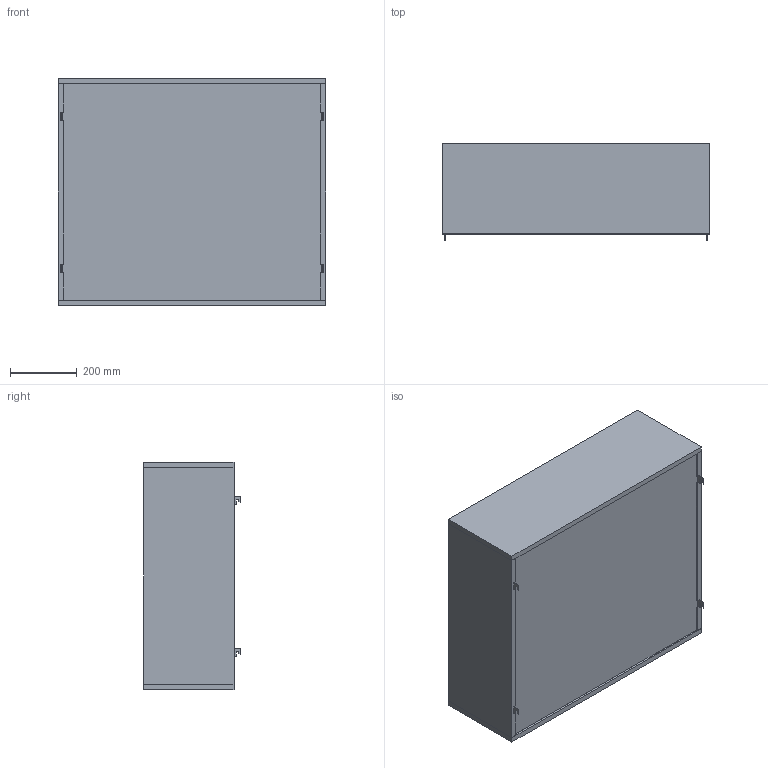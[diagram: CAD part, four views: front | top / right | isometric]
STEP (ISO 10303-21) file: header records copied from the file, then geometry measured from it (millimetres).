
FILE_DESCRIPTION(/* description */ (''),/* implementation_level */ '2;1');
FILE_NAME(/* name */ 'SHELF_LIBRARY_CABINET_680',/* time_stamp */ '2022-09-15T11:54:27+02:00',/* author */ (''),/* organization */ (''),/* preprocessor_version */ 'ST-DEVELOPER v16.5',/* originating_system */ '',/* authorisation */ '');
FILE_SCHEMA (('AUTOMOTIVE_DESIGN'));
Length unit declared in the file: millimetre
Products named in the file (1): Document
Bounding box: 800 x 289 x 680 mm (x, y, z)
Volume: 26257376.9 mm3; surface area: 4554545.6 mm2
Topology: 14 solids, 14 shells, 198 faces, 472 edges, 316 vertices
Faces by surface type: plane 138, bspline 60
Entity records: 5761 total; most frequent: CARTESIAN_POINT 2642, ORIENTED_EDGE 936, EDGE_CURVE 468, VERTEX_POINT 312, B_SPLINE_CURVE_WITH_KNOTS 282, EDGE_LOOP 228, ADVANCED_FACE 198, FACE_OUTER_BOUND 198
